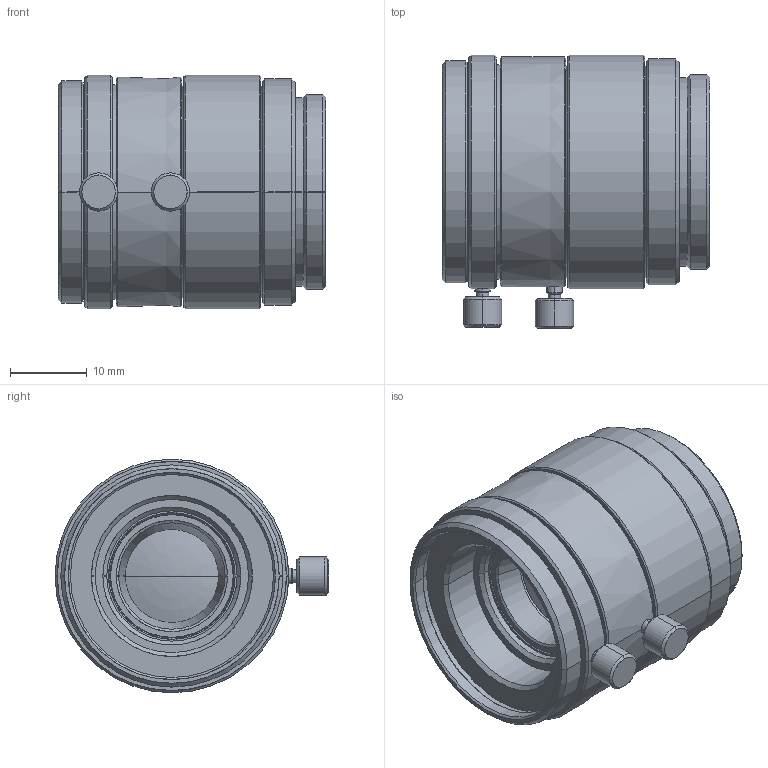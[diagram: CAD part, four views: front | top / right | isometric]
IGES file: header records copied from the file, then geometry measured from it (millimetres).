
Start section: SolidWorks IGES file using analytic representation for surfaces
Global section: file name: C:\Users\tsuji_vst\Documents\【図面】\_3D\00 VST\VS-LDA(APL)\VS-LDA20.IGS; native system: SolidWorks 2016; preprocessor: SolidWorks 2016; author: tsuji_vst; date: 160927.091352; units: millimetre
Bounding box: 34.98 x 35.75 x 30.5 mm (x, y, z)
Surface area: 6976.1 mm2 (no closed solid volume)
Topology: 0 solids, 0 shells, 151 faces, 2496 edges, 2494 vertices
Faces by surface type: revolution 128, bspline 23
